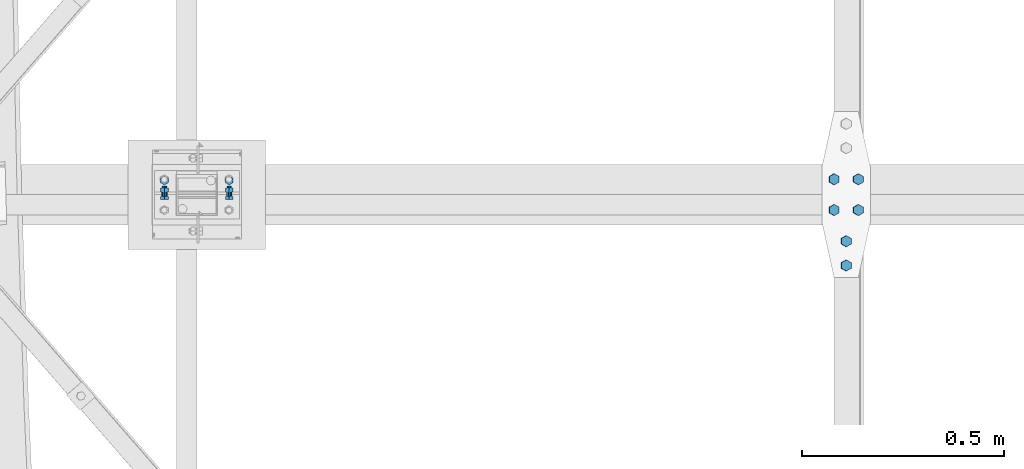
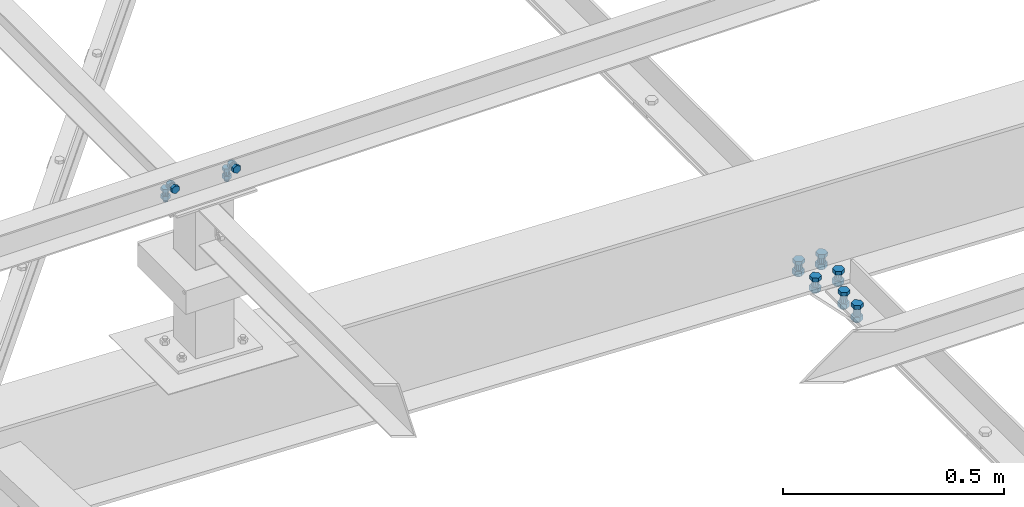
# One storey, part 165 of 3134: 4 mechanical fasteners, 3 elements without a shape of their own.
"""IFC2X3 building model written with IfcOpenShell, lengths in millimetres."""

from ifc_helpers import new_model, si_unit, frame, origin_with_axes, place, context, subcontext, project, spatial, faceted_brep, source, transform, mapped, material, type_object, element, aggregate, save


model = new_model("IFC2X3")

# Units and contexts
model_context = context("Model", 3, precision=1e-05, world=origin_with_axes())
body_context = subcontext(model_context, "Body", "Model", "MODEL_VIEW")
ifc_project = project(units=[si_unit("LENGTHUNIT", "METRE", prefix="MILLI"), si_unit("AREAUNIT", "SQUARE_METRE"), si_unit("VOLUMEUNIT", "CUBIC_METRE"), si_unit("MASSUNIT", "GRAM", prefix="KILO"), si_unit("TIMEUNIT", "SECOND"), si_unit("PLANEANGLEUNIT", "RADIAN"), si_unit("SOLIDANGLEUNIT", "STERADIAN"), si_unit("THERMODYNAMICTEMPERATUREUNIT", "DEGREE_CELSIUS"), si_unit("LUMINOUSINTENSITYUNIT", "LUMEN")], contexts=[model_context])

# Site, building, storey
site_placement = place(None, origin_with_axes())
site = spatial("IfcSite", under=ifc_project, at=site_placement, CompositionType="ELEMENT")
building_placement = place(site_placement, origin_with_axes())
building = spatial("IfcBuilding", under=site, at=building_placement, Name="Undefined", CompositionType="ELEMENT")
storey_placement = place(building_placement, origin_with_axes())
storey = spatial("IfcBuildingStorey", under=building, at=storey_placement, Name="Undefined", CompositionType="ELEMENT", Elevation=0.0)

# Assembly, mechanical fastener
assembly_1_placement = place(storey_placement, origin_with_axes())
assembly_1 = element("IfcElementAssembly", 1, at=assembly_1_placement, inside=storey, AssemblyPlace="NOTDEFINED", PredefinedType="RIGID_FRAME")
ifc_material = material(Name="8.8")
mechanical_fastener_type = type_object("IfcMechanicalFastenerType", Name="Bolt assembly")
shared_shape_1 = source(origin_with_axes(), body_context, "Body", "Brep", [
    faceted_brep([(10.9696551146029, -14.0, 0.0), (5.48482755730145, -14.0, 9.5), (-5.48482755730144, -14.0, 9.5), (-10.9696551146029, -14.0, 1.34339530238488e-15), (-5.48482755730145, -14.0, -9.5), (5.48482755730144, -14.0, -9.50000000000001), (5.48482755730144, -6.0, -9.50000000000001), (-5.48482755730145, -6.0, -9.5), (-10.9696551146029, -6.0, 1.34339530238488e-15), (-5.48482755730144, -6.0, 9.5), (5.48482755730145, -6.0, 9.5), (10.9696551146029, -6.0, 0.0), (6.0, -6.0, 0.0), (5.19615242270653, -6.0, 3.00000000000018), (2.99999999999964, -6.0, 5.19615242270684), (-6.21801588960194e-13, -6.0, 6.0), (-3.00000000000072, -6.0, 5.19615242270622), (-5.19615242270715, -6.0, 2.9999999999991), (-6.0, -6.0, -1.24360317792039e-12), (-5.19615242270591, -6.0, -3.00000000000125), (-2.99999999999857, -6.0, -5.19615242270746), (1.85874342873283e-12, -6.0, -6.0), (3.00000000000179, -6.0, -5.1961524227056), (5.19615242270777, -6.0, -2.99999999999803), (5.19615242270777, 24.0, -2.99999999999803), (3.00000000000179, 24.0, -5.1961524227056), (1.85874342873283e-12, 24.0, -6.0), (-2.99999999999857, 24.0, -5.19615242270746), (-5.19615242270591, 24.0, -3.00000000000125), (-6.0, 24.0, -1.24360317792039e-12), (-5.19615242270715, 24.0, 2.9999999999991), (-3.00000000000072, 24.0, 5.19615242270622), (-6.21801588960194e-13, 24.0, 6.0), (2.99999999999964, 24.0, 5.19615242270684), (5.19615242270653, 24.0, 3.00000000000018), (6.0, 24.0, 0.0), (10.9696551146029, 6.00000000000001, 0.0), (5.48482755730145, 6.00000000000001, 9.5), (-5.48482755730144, 6.00000000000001, 9.5), (-10.9696551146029, 6.00000000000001, 1.34339530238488e-15), (-5.48482755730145, 6.00000000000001, -9.5), (5.48482755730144, 6.00000000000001, -9.50000000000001), (5.48482755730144, 16.0, -9.50000000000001), (-5.48482755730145, 16.0, -9.5), (-10.9696551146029, 16.0, 1.34339530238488e-15), (-5.48482755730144, 16.0, 9.5), (5.48482755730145, 16.0, 9.5), (10.9696551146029, 16.0, 0.0)], [[[0, 1, 2, 3, 4, 5]], [[6, 7, 8, 9, 10, 11]], [[0, 11, 10, 1]], [[1, 10, 9, 2]], [[2, 9, 8, 3]], [[3, 8, 7, 4]], [[4, 7, 6, 5]], [[5, 6, 11, 0]], [[12, 13, 14, 15, 16, 17, 18, 19, 20, 21, 22, 23]], [[24, 25, 26, 27, 28, 29, 30, 31, 32, 33, 34, 35]], [[12, 35, 34, 13]], [[13, 34, 33, 14]], [[14, 33, 32, 15]], [[15, 32, 31, 16]], [[16, 31, 30, 17]], [[17, 30, 29, 18]], [[18, 29, 28, 19]], [[19, 28, 27, 20]], [[20, 27, 26, 21]], [[21, 26, 25, 22]], [[22, 25, 24, 23]], [[23, 24, 35, 12]], [[36, 37, 38, 39, 40, 41]], [[42, 43, 44, 45, 46, 47]], [[36, 47, 46, 37]], [[37, 46, 45, 38]], [[38, 45, 44, 39]], [[39, 44, 43, 40]], [[40, 43, 42, 41]], [[41, 42, 47, 36]]]),
    faceted_brep([(7.0, -0.1, 0.0), (6.06217782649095, -0.1, 3.50000000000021), (3.49999999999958, -0.1, 6.06217782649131), (-7.25435187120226e-13, -0.1, 7.0), (-3.50000000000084, -0.1, 6.06217782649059), (-6.06217782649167, -0.1, 3.49999999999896), (-7.0, -0.1, -1.45087037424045e-12), (-6.06217782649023, -0.1, -3.50000000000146), (-3.49999999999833, -0.1, -6.06217782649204), (2.1685340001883e-12, -0.1, -7.0), (3.50000000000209, -0.1, -6.06217782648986), (6.0621778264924, -0.1, -3.4999999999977), (6.0621778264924, 6.00000000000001, -3.4999999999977), (3.50000000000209, 6.00000000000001, -6.06217782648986), (2.1685340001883e-12, 6.00000000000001, -7.0), (-3.49999999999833, 6.00000000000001, -6.06217782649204), (-6.06217782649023, 6.00000000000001, -3.50000000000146), (-7.0, 6.00000000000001, -1.45087037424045e-12), (-6.06217782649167, 6.00000000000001, 3.49999999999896), (-3.50000000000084, 6.00000000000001, 6.06217782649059), (-7.25435187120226e-13, 6.00000000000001, 7.0), (3.49999999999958, 6.00000000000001, 6.06217782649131), (6.06217782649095, 6.00000000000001, 3.50000000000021), (7.0, 6.00000000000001, 0.0), (7.0, -5.9, 0.0), (6.06217782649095, -5.9, 3.50000000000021), (3.49999999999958, -5.9, 6.06217782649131), (-7.25435187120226e-13, -5.9, 7.0), (-3.50000000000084, -5.9, 6.06217782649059), (-6.06217782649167, -5.9, 3.49999999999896), (-7.0, -5.9, -1.45087037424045e-12), (-6.06217782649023, -5.9, -3.50000000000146), (-3.49999999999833, -5.9, -6.06217782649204), (2.1685340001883e-12, -5.9, -7.0), (3.50000000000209, -5.9, -6.06217782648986), (6.0621778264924, -5.9, -3.4999999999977), (6.0621778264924, 0.0999999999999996, -3.4999999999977), (3.50000000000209, 0.0999999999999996, -6.06217782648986), (2.1685340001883e-12, 0.0999999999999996, -7.0), (-3.49999999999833, 0.0999999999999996, -6.06217782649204), (-6.06217782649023, 0.0999999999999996, -3.50000000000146), (-7.0, 0.0999999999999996, -1.45087037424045e-12), (-6.06217782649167, 0.0999999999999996, 3.49999999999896), (-3.50000000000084, 0.0999999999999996, 6.06217782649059), (-7.25435187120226e-13, 0.0999999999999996, 7.0), (3.49999999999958, 0.0999999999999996, 6.06217782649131), (6.06217782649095, 0.0999999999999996, 3.50000000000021), (7.0, 0.0999999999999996, 0.0)], [[[0, 1, 2, 3, 4, 5, 6, 7, 8, 9, 10, 11]], [[12, 13, 14, 15, 16, 17, 18, 19, 20, 21, 22, 23]], [[0, 23, 22, 1]], [[1, 22, 21, 2]], [[2, 21, 20, 3]], [[3, 20, 19, 4]], [[4, 19, 18, 5]], [[5, 18, 17, 6]], [[6, 17, 16, 7]], [[7, 16, 15, 8]], [[8, 15, 14, 9]], [[9, 14, 13, 10]], [[10, 13, 12, 11]], [[11, 12, 23, 0]], [[24, 25, 26, 27, 28, 29, 30, 31, 32, 33, 34, 35]], [[36, 37, 38, 39, 40, 41, 42, 43, 44, 45, 46, 47]], [[24, 47, 46, 25]], [[25, 46, 45, 26]], [[26, 45, 44, 27]], [[27, 44, 43, 28]], [[28, 43, 42, 29]], [[29, 42, 41, 30]], [[30, 41, 40, 31]], [[31, 40, 39, 32]], [[32, 39, 38, 33]], [[33, 38, 37, 34]], [[34, 37, 36, 35]], [[35, 36, 47, 24]]]),
])
mechanical_fastener_1_placement = place(assembly_1_placement, frame((3043.33, 32278.75, 4365.0), z_axis=(1.0, 0.0, 0.0), x_axis=(0.0, -1.0, 0.0)))
mechanical_fastener_1 = element("IfcMechanicalFastener", 2, at=mechanical_fastener_1_placement, type_object=mechanical_fastener_type, material=ifc_material, Name="Bolt assembly", NominalDiameter=12.0, NominalLength=30.0, context=body_context, shape_type="MappedRepresentation", body=[
    mapped(shared_shape_1, transform((0.0, -5.32963895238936e-10, -79.9999999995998))),
    mapped(shared_shape_1, transform((0.0, 5.3114490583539e-10, 79.9999999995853))),
])

assembly_2_placement = place(storey_placement, origin_with_axes())
assembly_2 = element("IfcElementAssembly", 3, at=assembly_2_placement, inside=storey, AssemblyPlace="NOTDEFINED", PredefinedType="RIGID_FRAME")
shared_shape_2 = source(origin_with_axes(), body_context, "Body", "Brep", [
    faceted_brep([(13.856406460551, -21.0000017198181, 0.0), (6.92820323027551, -21.0000017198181, 12.0), (-6.92820323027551, -21.0000017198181, 12.0), (-13.856406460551, -21.0000017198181, 1.69692038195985e-15), (-6.92820323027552, -21.0000017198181, -12.0), (6.9282032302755, -21.0000017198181, -12.0), (6.9282032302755, -11.0000017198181, -12.0), (-6.92820323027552, -11.0000017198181, -12.0), (-13.856406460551, -11.0000017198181, 1.69692038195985e-15), (-6.92820323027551, -11.0000017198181, 12.0), (6.92820323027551, -11.0000017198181, 12.0), (13.856406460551, -11.0000017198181, 0.0), (8.0, -11.0000017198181, 0.0), (6.92820323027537, -11.0000017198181, 4.00000000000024), (3.99999999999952, -11.0000017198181, 6.92820323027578), (-8.29068785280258e-13, -11.0000017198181, 8.0), (-4.00000000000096, -11.0000017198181, 6.92820323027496), (-6.9282032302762, -11.0000017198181, 3.99999999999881), (-8.0, -11.0000017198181, -1.65813757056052e-12), (-6.92820323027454, -11.0000017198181, -4.00000000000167), (-3.99999999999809, -11.0000017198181, -6.92820323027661), (2.47832457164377e-12, -11.0000017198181, -8.0), (4.00000000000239, -11.0000017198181, -6.92820323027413), (6.92820323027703, -11.0000017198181, -3.99999999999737), (6.92820323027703, 29.0, -3.99999999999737), (4.00000000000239, 29.0, -6.92820323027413), (2.47832457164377e-12, 29.0, -8.0), (-3.99999999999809, 29.0, -6.92820323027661), (-6.92820323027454, 29.0, -4.00000000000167), (-8.0, 29.0, -1.65813757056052e-12), (-6.9282032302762, 29.0, 3.99999999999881), (-4.00000000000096, 29.0, 6.92820323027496), (-8.29068785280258e-13, 29.0, 8.0), (3.99999999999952, 29.0, 6.92820323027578), (6.92820323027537, 29.0, 4.00000000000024), (8.0, 29.0, 0.0), (13.856406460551, 10.9999982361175, 0.0), (6.92820323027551, 10.9999982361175, 12.0), (-6.92820323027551, 10.9999982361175, 12.0), (-13.856406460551, 10.9999982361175, 1.69692038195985e-15), (-6.92820323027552, 10.9999982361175, -12.0), (6.9282032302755, 10.9999982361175, -12.0), (6.9282032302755, 23.9999999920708, -12.0), (-6.92820323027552, 23.9999999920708, -12.0), (-13.856406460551, 23.9999999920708, 1.69692038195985e-15), (-6.92820323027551, 23.9999999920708, 12.0), (6.92820323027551, 23.9999999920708, 12.0), (13.856406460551, 23.9999999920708, 0.0)], [[[0, 1, 2, 3, 4, 5]], [[6, 7, 8, 9, 10, 11]], [[0, 11, 10, 1]], [[1, 10, 9, 2]], [[2, 9, 8, 3]], [[3, 8, 7, 4]], [[4, 7, 6, 5]], [[5, 6, 11, 0]], [[12, 13, 14, 15, 16, 17, 18, 19, 20, 21, 22, 23]], [[24, 25, 26, 27, 28, 29, 30, 31, 32, 33, 34, 35]], [[12, 35, 34, 13]], [[13, 34, 33, 14]], [[14, 33, 32, 15]], [[15, 32, 31, 16]], [[16, 31, 30, 17]], [[17, 30, 29, 18]], [[18, 29, 28, 19]], [[19, 28, 27, 20]], [[20, 27, 26, 21]], [[21, 26, 25, 22]], [[22, 25, 24, 23]], [[23, 24, 35, 12]], [[36, 37, 38, 39, 40, 41]], [[42, 43, 44, 45, 46, 47]], [[36, 47, 46, 37]], [[37, 46, 45, 38]], [[38, 45, 44, 39]], [[39, 44, 43, 40]], [[40, 43, 42, 41]], [[41, 42, 47, 36]]]),
    faceted_brep([(9.0, -3.99999624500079, 0.0), (7.79422863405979, -3.99999624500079, 4.50000000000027), (4.49999999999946, -3.99999624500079, 7.79422863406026), (-9.3270238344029e-13, -3.99999624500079, 9.0), (-4.50000000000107, -3.99999624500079, 7.79422863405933), (-7.79422863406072, -3.99999624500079, 4.49999999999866), (-9.0, -3.99999624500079, -1.86540476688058e-12), (-7.79422863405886, -3.99999624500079, -4.50000000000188), (-4.49999999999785, -3.99999624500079, -7.79422863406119), (2.78811514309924e-12, -3.99999624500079, -9.0), (4.50000000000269, -3.99999624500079, -7.7942286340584), (7.79422863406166, -3.99999624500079, -4.49999999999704), (7.79422863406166, 4.00000375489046, -4.49999999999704), (4.50000000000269, 4.00000375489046, -7.7942286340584), (2.78811514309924e-12, 4.00000375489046, -9.0), (-4.49999999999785, 4.00000375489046, -7.79422863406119), (-7.79422863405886, 4.00000375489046, -4.50000000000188), (-9.0, 4.00000375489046, -1.86540476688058e-12), (-7.79422863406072, 4.00000375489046, 4.49999999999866), (-4.50000000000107, 4.00000375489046, 7.79422863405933), (-9.3270238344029e-13, 4.00000375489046, 9.0), (4.49999999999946, 4.00000375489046, 7.79422863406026), (7.79422863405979, 4.00000375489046, 4.50000000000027), (9.0, 4.00000375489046, 0.0), (9.0, -10.9000017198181, 0.0), (7.79422863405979, -10.9000017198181, 4.50000000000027), (4.49999999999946, -10.9000017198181, 7.79422863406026), (-9.3270238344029e-13, -10.9000017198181, 9.0), (-4.50000000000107, -10.9000017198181, 7.79422863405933), (-7.79422863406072, -10.9000017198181, 4.49999999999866), (-9.0, -10.9000017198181, -1.86540476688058e-12), (-7.79422863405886, -10.9000017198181, -4.50000000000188), (-4.49999999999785, -10.9000017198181, -7.79422863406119), (2.78811514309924e-12, -10.9000017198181, -9.0), (4.50000000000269, -10.9000017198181, -7.7942286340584), (7.79422863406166, -10.9000017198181, -4.49999999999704), (7.79422863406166, -3.9, -4.49999999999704), (4.50000000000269, -3.9, -7.7942286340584), (2.78811514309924e-12, -3.9, -9.0), (-4.49999999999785, -3.9, -7.79422863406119), (-7.79422863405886, -3.9, -4.50000000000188), (-9.0, -3.9, -1.86540476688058e-12), (-7.79422863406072, -3.9, 4.49999999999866), (-4.50000000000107, -3.9, 7.79422863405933), (-9.3270238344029e-13, -3.9, 9.0), (4.49999999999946, -3.9, 7.79422863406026), (7.79422863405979, -3.9, 4.50000000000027), (9.0, -3.9, 0.0), (9.0, 3.9, 0.0), (7.79422863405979, 3.9, 4.50000000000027), (4.49999999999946, 3.9, 7.79422863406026), (-9.3270238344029e-13, 3.9, 9.0), (-4.50000000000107, 3.9, 7.79422863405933), (-7.79422863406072, 3.9, 4.49999999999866), (-9.0, 3.9, -1.86540476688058e-12), (-7.79422863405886, 3.9, -4.50000000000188), (-4.49999999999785, 3.9, -7.79422863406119), (2.78811514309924e-12, 3.9, -9.0), (4.50000000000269, 3.9, -7.7942286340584), (7.79422863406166, 3.9, -4.49999999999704), (7.79422863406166, 10.9999982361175, -4.49999999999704), (4.50000000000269, 10.9999982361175, -7.7942286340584), (2.78811514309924e-12, 10.9999982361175, -9.0), (-4.49999999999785, 10.9999982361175, -7.79422863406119), (-7.79422863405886, 10.9999982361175, -4.50000000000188), (-9.0, 10.9999982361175, -1.86540476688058e-12), (-7.79422863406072, 10.9999982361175, 4.49999999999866), (-4.50000000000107, 10.9999982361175, 7.79422863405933), (-9.3270238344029e-13, 10.9999982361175, 9.0), (4.49999999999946, 10.9999982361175, 7.79422863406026), (7.79422863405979, 10.9999982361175, 4.50000000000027), (9.0, 10.9999982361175, 0.0)], [[[0, 1, 2, 3, 4, 5, 6, 7, 8, 9, 10, 11]], [[12, 13, 14, 15, 16, 17, 18, 19, 20, 21, 22, 23]], [[0, 23, 22, 1]], [[1, 22, 21, 2]], [[2, 21, 20, 3]], [[3, 20, 19, 4]], [[4, 19, 18, 5]], [[5, 18, 17, 6]], [[6, 17, 16, 7]], [[7, 16, 15, 8]], [[8, 15, 14, 9]], [[9, 14, 13, 10]], [[10, 13, 12, 11]], [[11, 12, 23, 0]], [[24, 25, 26, 27, 28, 29, 30, 31, 32, 33, 34, 35]], [[36, 37, 38, 39, 40, 41, 42, 43, 44, 45, 46, 47]], [[24, 47, 46, 25]], [[25, 46, 45, 26]], [[26, 45, 44, 27]], [[27, 44, 43, 28]], [[28, 43, 42, 29]], [[29, 42, 41, 30]], [[30, 41, 40, 31]], [[31, 40, 39, 32]], [[32, 39, 38, 33]], [[33, 38, 37, 34]], [[34, 37, 36, 35]], [[35, 36, 47, 24]], [[48, 49, 50, 51, 52, 53, 54, 55, 56, 57, 58, 59]], [[60, 61, 62, 63, 64, 65, 66, 67, 68, 69, 70, 71]], [[48, 71, 70, 49]], [[49, 70, 69, 50]], [[50, 69, 68, 51]], [[51, 68, 67, 52]], [[52, 67, 66, 53]], [[53, 66, 65, 54]], [[54, 65, 64, 55]], [[55, 64, 63, 56]], [[56, 63, 62, 57]], [[57, 62, 61, 58]], [[58, 61, 60, 59]], [[59, 60, 71, 48]]]),
])
mechanical_fastener_2_placement = place(assembly_2_placement, frame((4647.50483520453, 32128.75, 3576.15051901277), z_axis=(0.999388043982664, 0.0, -0.0349791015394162), x_axis=(0.0, -1.0, 0.0)))
mechanical_fastener_2 = element("IfcMechanicalFastener", 4, at=mechanical_fastener_2_placement, type_object=mechanical_fastener_type, material=ifc_material, Name="Bolt assembly", NominalDiameter=16.0, NominalLength=40.0, context=body_context, shape_type="MappedRepresentation", body=[
    mapped(shared_shape_2, transform((0.0, 0.0, 0.0))),
    mapped(shared_shape_2, transform((59.9999999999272, 0.0, 5.40239852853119e-10))),
])
aggregate(assembly_2, [mechanical_fastener_2])

assembly_3_placement = place(storey_placement, origin_with_axes())
assembly_3 = element("IfcElementAssembly", 5, at=assembly_3_placement, inside=storey, Name="PL8", AssemblyPlace="NOTDEFINED", PredefinedType="RIGID_FRAME")
shared_shape_3 = source(origin_with_axes(), body_context, "Body", "Brep", [
    faceted_brep([(13.856406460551, -23.2000817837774, 0.0), (6.92820323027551, -23.2000817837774, 12.0), (-6.92820323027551, -23.2000817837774, 12.0), (-13.856406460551, -23.2000817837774, 1.69692038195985e-15), (-6.92820323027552, -23.2000817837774, -12.0), (6.9282032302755, -23.2000817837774, -12.0), (6.9282032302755, -13.2000817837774, -12.0), (-6.92820323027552, -13.2000817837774, -12.0), (-13.856406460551, -13.2000817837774, 1.69692038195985e-15), (-6.92820323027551, -13.2000817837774, 12.0), (6.92820323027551, -13.2000817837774, 12.0), (13.856406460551, -13.2000817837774, 0.0), (8.0, -13.2000817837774, 0.0), (6.92820323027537, -13.2000817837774, 4.00000000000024), (3.99999999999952, -13.2000817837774, 6.92820323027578), (-8.29068785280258e-13, -13.2000817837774, 8.0), (-4.00000000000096, -13.2000817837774, 6.92820323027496), (-6.9282032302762, -13.2000817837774, 3.99999999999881), (-8.0, -13.2000817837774, -1.65813757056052e-12), (-6.92820323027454, -13.2000817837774, -4.00000000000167), (-3.99999999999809, -13.2000817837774, -6.92820323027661), (2.47832457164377e-12, -13.2000817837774, -8.0), (4.00000000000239, -13.2000817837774, -6.92820323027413), (6.92820323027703, -13.2000817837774, -3.99999999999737), (6.92820323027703, 21.7999182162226, -3.99999999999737), (4.00000000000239, 21.7999182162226, -6.92820323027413), (2.47832457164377e-12, 21.7999182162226, -8.0), (-3.99999999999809, 21.7999182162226, -6.92820323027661), (-6.92820323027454, 21.7999182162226, -4.00000000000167), (-8.0, 21.7999182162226, -1.65813757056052e-12), (-6.9282032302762, 21.7999182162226, 3.99999999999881), (-4.00000000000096, 21.7999182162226, 6.92820323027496), (-8.29068785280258e-13, 21.7999182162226, 8.0), (3.99999999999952, 21.7999182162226, 6.92820323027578), (6.92820323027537, 21.7999182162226, 4.00000000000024), (8.0, 21.7999182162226, 0.0), (13.856406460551, 3.99999999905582, 0.0), (6.92820323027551, 3.99999999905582, 12.0), (-6.92820323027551, 3.99999999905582, 12.0), (-13.856406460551, 3.99999999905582, 1.69692038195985e-15), (-6.92820323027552, 3.99999999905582, -12.0), (6.9282032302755, 3.99999999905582, -12.0), (6.9282032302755, 16.9999999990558, -12.0), (-6.92820323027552, 16.9999999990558, -12.0), (-13.856406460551, 16.9999999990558, 1.69692038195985e-15), (-6.92820323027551, 16.9999999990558, 12.0), (6.92820323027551, 16.9999999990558, 12.0), (13.856406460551, 16.9999999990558, 0.0)], [[[0, 1, 2, 3, 4, 5]], [[6, 7, 8, 9, 10, 11]], [[0, 11, 10, 1]], [[1, 10, 9, 2]], [[2, 9, 8, 3]], [[3, 8, 7, 4]], [[4, 7, 6, 5]], [[5, 6, 11, 0]], [[12, 13, 14, 15, 16, 17, 18, 19, 20, 21, 22, 23]], [[24, 25, 26, 27, 28, 29, 30, 31, 32, 33, 34, 35]], [[12, 35, 34, 13]], [[13, 34, 33, 14]], [[14, 33, 32, 15]], [[15, 32, 31, 16]], [[16, 31, 30, 17]], [[17, 30, 29, 18]], [[18, 29, 28, 19]], [[19, 28, 27, 20]], [[20, 27, 26, 21]], [[21, 26, 25, 22]], [[22, 25, 24, 23]], [[23, 24, 35, 12]], [[36, 37, 38, 39, 40, 41]], [[42, 43, 44, 45, 46, 47]], [[36, 47, 46, 37]], [[37, 46, 45, 38]], [[38, 45, 44, 39]], [[39, 44, 43, 40]], [[40, 43, 42, 41]], [[41, 42, 47, 36]]]),
    faceted_brep([(9.0, -13.1000817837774, 0.0), (7.79422863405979, -13.1000817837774, 4.50000000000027), (4.49999999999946, -13.1000817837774, 7.79422863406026), (-9.3270238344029e-13, -13.1000817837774, 9.0), (-4.50000000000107, -13.1000817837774, 7.79422863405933), (-7.79422863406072, -13.1000817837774, 4.49999999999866), (-9.0, -13.1000817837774, -1.86540476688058e-12), (-7.79422863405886, -13.1000817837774, -4.50000000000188), (-4.49999999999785, -13.1000817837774, -7.79422863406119), (2.78811514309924e-12, -13.1000817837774, -9.0), (4.50000000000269, -13.1000817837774, -7.7942286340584), (7.79422863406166, -13.1000817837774, -4.49999999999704), (7.79422863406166, -3.90008197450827, -4.49999999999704), (4.50000000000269, -3.90008197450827, -7.7942286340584), (2.78811514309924e-12, -3.90008197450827, -9.0), (-4.49999999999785, -3.90008197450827, -7.79422863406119), (-7.79422863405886, -3.90008197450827, -4.50000000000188), (-9.0, -3.90008197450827, -1.86540476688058e-12), (-7.79422863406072, -3.90008197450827, 4.49999999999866), (-4.50000000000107, -3.90008197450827, 7.79422863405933), (-9.3270238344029e-13, -3.90008197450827, 9.0), (4.49999999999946, -3.90008197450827, 7.79422863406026), (7.79422863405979, -3.90008197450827, 4.50000000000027), (9.0, -3.90008197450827, 0.0), (9.0, -4.10000000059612, 0.0), (7.79422863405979, -4.10000000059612, 4.50000000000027), (4.49999999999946, -4.10000000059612, 7.79422863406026), (-9.3270238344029e-13, -4.10000000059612, 9.0), (-4.50000000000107, -4.10000000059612, 7.79422863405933), (-7.79422863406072, -4.10000000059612, 4.49999999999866), (-9.0, -4.10000000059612, -1.86540476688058e-12), (-7.79422863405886, -4.10000000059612, -4.50000000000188), (-4.49999999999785, -4.10000000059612, -7.79422863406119), (2.78811514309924e-12, -4.10000000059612, -9.0), (4.50000000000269, -4.10000000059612, -7.7942286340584), (7.79422863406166, -4.10000000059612, -4.49999999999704), (7.79422863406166, 4.00000375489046, -4.49999999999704), (4.50000000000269, 4.00000375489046, -7.7942286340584), (2.78811514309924e-12, 4.00000375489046, -9.0), (-4.49999999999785, 4.00000375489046, -7.79422863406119), (-7.79422863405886, 4.00000375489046, -4.50000000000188), (-9.0, 4.00000375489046, -1.86540476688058e-12), (-7.79422863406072, 4.00000375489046, 4.49999999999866), (-4.50000000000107, 4.00000375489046, 7.79422863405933), (-9.3270238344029e-13, 4.00000375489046, 9.0), (4.49999999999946, 4.00000375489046, 7.79422863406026), (7.79422863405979, 4.00000375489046, 4.50000000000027), (9.0, 4.00000375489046, 0.0)], [[[0, 1, 2, 3, 4, 5, 6, 7, 8, 9, 10, 11]], [[12, 13, 14, 15, 16, 17, 18, 19, 20, 21, 22, 23]], [[0, 23, 22, 1]], [[1, 22, 21, 2]], [[2, 21, 20, 3]], [[3, 20, 19, 4]], [[4, 19, 18, 5]], [[5, 18, 17, 6]], [[6, 17, 16, 7]], [[7, 16, 15, 8]], [[8, 15, 14, 9]], [[9, 14, 13, 10]], [[10, 13, 12, 11]], [[11, 12, 23, 0]], [[24, 25, 26, 27, 28, 29, 30, 31, 32, 33, 34, 35]], [[36, 37, 38, 39, 40, 41, 42, 43, 44, 45, 46, 47]], [[24, 47, 46, 25]], [[25, 46, 45, 26]], [[26, 45, 44, 27]], [[27, 44, 43, 28]], [[28, 43, 42, 29]], [[29, 42, 41, 30]], [[30, 41, 40, 31]], [[31, 40, 39, 32]], [[32, 39, 38, 33]], [[33, 38, 37, 34]], [[34, 37, 36, 35]], [[35, 36, 47, 24]]]),
])
mechanical_fastener_3_placement = place(assembly_3_placement, frame((4647.50483517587, 32205.75, 3576.15051901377), z_axis=(-0.999388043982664, 0.0, 0.0349791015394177), x_axis=(0.0, 1.0, 0.0)))
mechanical_fastener_3 = element("IfcMechanicalFastener", 6, at=mechanical_fastener_3_placement, type_object=mechanical_fastener_type, material=ifc_material, Name="Bolt assembly", NominalDiameter=16.0, NominalLength=35.0, context=body_context, shape_type="MappedRepresentation", body=[
    mapped(shared_shape_3, transform((0.0, 4.54747350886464e-13, -30.0000000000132))),
    mapped(shared_shape_3, transform((76.0, -2.00088834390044e-10, -29.9999999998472))),
    mapped(shared_shape_3, transform((0.0, 4.54747350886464e-13, 30.0000000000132))),
    mapped(shared_shape_3, transform((76.0, 1.98269844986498e-10, 29.9999999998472))),
])
aggregate(assembly_3, [mechanical_fastener_3])

# Mechanical fastener
shared_shape_4 = source(origin_with_axes(), body_context, "Body", "Brep", [
    faceted_brep([(10.9696551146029, -12.0003169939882, 0.0), (5.48482755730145, -12.0003169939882, 9.5), (-5.48482755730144, -12.0003169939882, 9.5), (-10.9696551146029, -12.0003169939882, 1.34339530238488e-15), (-5.48482755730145, -12.0003169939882, -9.5), (5.48482755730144, -12.0003169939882, -9.50000000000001), (5.48482755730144, -4.00031699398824, -9.50000000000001), (-5.48482755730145, -4.00031699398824, -9.5), (-10.9696551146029, -4.00031699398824, 1.34339530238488e-15), (-5.48482755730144, -4.00031699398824, 9.5), (5.48482755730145, -4.00031699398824, 9.5), (10.9696551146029, -4.00031699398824, 0.0), (6.0, -4.00031699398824, 0.0), (5.19615242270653, -4.00031699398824, 3.00000000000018), (2.99999999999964, -4.00031699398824, 5.19615242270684), (-6.21801588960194e-13, -4.00031699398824, 6.0), (-3.00000000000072, -4.00031699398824, 5.19615242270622), (-5.19615242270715, -4.00031699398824, 2.9999999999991), (-6.0, -4.00031699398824, -1.24360317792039e-12), (-5.19615242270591, -4.00031699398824, -3.00000000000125), (-2.99999999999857, -4.00031699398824, -5.19615242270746), (1.85874342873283e-12, -4.00031699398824, -6.0), (3.00000000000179, -4.00031699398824, -5.1961524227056), (5.19615242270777, -4.00031699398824, -2.99999999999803), (5.19615242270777, 20.9997148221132, -2.99999999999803), (3.00000000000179, 20.9997148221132, -5.1961524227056), (1.85874342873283e-12, 20.9997148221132, -6.0), (-2.99999999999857, 20.9997148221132, -5.19615242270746), (-5.19615242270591, 20.9997148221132, -3.00000000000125), (-6.0, 20.9997148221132, -1.24360317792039e-12), (-5.19615242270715, 20.9997148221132, 2.9999999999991), (-3.00000000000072, 20.9997148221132, 5.19615242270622), (-6.21801588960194e-13, 20.9997148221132, 6.0), (2.99999999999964, 20.9997148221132, 5.19615242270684), (5.19615242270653, 20.9997148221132, 3.00000000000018), (6.0, 20.9997148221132, 0.0), (10.9696551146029, 6.00000000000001, 0.0), (5.48482755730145, 6.00000000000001, 9.5), (-5.48482755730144, 6.00000000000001, 9.5), (-10.9696551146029, 6.00000000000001, 1.34339530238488e-15), (-5.48482755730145, 6.00000000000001, -9.5), (5.48482755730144, 6.00000000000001, -9.50000000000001), (5.48482755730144, 16.0, -9.50000000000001), (-5.48482755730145, 16.0, -9.5), (-10.9696551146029, 16.0, 1.34339530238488e-15), (-5.48482755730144, 16.0, 9.5), (5.48482755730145, 16.0, 9.5), (10.9696551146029, 16.0, 0.0)], [[[0, 1, 2, 3, 4, 5]], [[6, 7, 8, 9, 10, 11]], [[0, 11, 10, 1]], [[1, 10, 9, 2]], [[2, 9, 8, 3]], [[3, 8, 7, 4]], [[4, 7, 6, 5]], [[5, 6, 11, 0]], [[12, 13, 14, 15, 16, 17, 18, 19, 20, 21, 22, 23]], [[24, 25, 26, 27, 28, 29, 30, 31, 32, 33, 34, 35]], [[12, 35, 34, 13]], [[13, 34, 33, 14]], [[14, 33, 32, 15]], [[15, 32, 31, 16]], [[16, 31, 30, 17]], [[17, 30, 29, 18]], [[18, 29, 28, 19]], [[19, 28, 27, 20]], [[20, 27, 26, 21]], [[21, 26, 25, 22]], [[22, 25, 24, 23]], [[23, 24, 35, 12]], [[36, 37, 38, 39, 40, 41]], [[42, 43, 44, 45, 46, 47]], [[36, 47, 46, 37]], [[37, 46, 45, 38]], [[38, 45, 44, 39]], [[39, 44, 43, 40]], [[40, 43, 42, 41]], [[41, 42, 47, 36]]]),
    faceted_brep([(7.0, -3.90031233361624, 0.0), (6.06217782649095, -3.90027629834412, 3.50000000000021), (3.49999999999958, -3.90031233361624, 6.06217782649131), (-7.25435187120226e-13, -3.90027629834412, 7.0), (-3.50000000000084, -3.90027629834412, 6.06217782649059), (-6.06217782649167, -3.90027629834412, 3.49999999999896), (-7.0, -3.90031233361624, -1.45087037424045e-12), (-6.06217782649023, -3.90027629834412, -3.50000000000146), (-3.49999999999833, -3.90027629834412, -6.06217782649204), (2.1685340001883e-12, -3.90027629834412, -7.0), (3.50000000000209, -3.90027629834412, -6.06217782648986), (6.0621778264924, -3.90031233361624, -3.4999999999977), (6.0621778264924, 0.0996830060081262, -3.4999999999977), (3.50000000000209, 0.0996830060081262, -6.06217782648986), (2.1685340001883e-12, 0.0996830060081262, -7.0), (-3.49999999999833, 0.0996830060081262, -6.06217782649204), (-6.06217782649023, 0.0996830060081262, -3.50000000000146), (-7.0, 0.0996830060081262, -1.45087037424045e-12), (-6.06217782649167, 0.0997148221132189, 3.49999999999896), (-3.50000000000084, 0.0997148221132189, 6.06217782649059), (-7.25435187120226e-13, 0.0996830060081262, 7.0), (3.49999999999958, 0.0996830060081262, 6.06217782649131), (6.06217782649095, 0.0996830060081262, 3.50000000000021), (7.0, 0.0997148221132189, 0.0), (7.0, -0.1, 0.0), (6.06217782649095, -0.1, 3.50000000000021), (3.49999999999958, -0.1, 6.06217782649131), (-7.25435187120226e-13, -0.1, 7.0), (-3.50000000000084, -0.1, 6.06217782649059), (-6.06217782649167, -0.1, 3.49999999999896), (-7.0, -0.1, -1.45087037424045e-12), (-6.06217782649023, -0.1, -3.50000000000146), (-3.49999999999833, -0.1, -6.06217782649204), (2.1685340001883e-12, -0.1, -7.0), (3.50000000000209, -0.1, -6.06217782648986), (6.0621778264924, -0.1, -3.4999999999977), (6.0621778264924, 6.00000000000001, -3.4999999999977), (3.50000000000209, 6.00000000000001, -6.06217782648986), (2.1685340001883e-12, 6.00000000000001, -7.0), (-3.49999999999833, 6.00000000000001, -6.06217782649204), (-6.06217782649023, 6.00000000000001, -3.50000000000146), (-7.0, 6.00000000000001, -1.45087037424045e-12), (-6.06217782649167, 6.00000000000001, 3.49999999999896), (-3.50000000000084, 6.00000000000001, 6.06217782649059), (-7.25435187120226e-13, 6.00000000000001, 7.0), (3.49999999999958, 6.00000000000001, 6.06217782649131), (6.06217782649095, 6.00000000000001, 3.50000000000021), (7.0, 6.00000000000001, 0.0)], [[[0, 1, 2, 3, 4, 5, 6, 7, 8, 9, 10, 11]], [[12, 13, 14, 15, 16, 17, 18, 19, 20, 21, 22, 23]], [[0, 23, 22, 1]], [[1, 22, 21, 2]], [[2, 21, 20, 3]], [[3, 20, 19, 4]], [[4, 19, 18, 5]], [[5, 18, 17, 6]], [[6, 17, 16, 7]], [[7, 16, 15, 8]], [[8, 15, 14, 9]], [[9, 14, 13, 10]], [[10, 13, 12, 11]], [[11, 12, 23, 0]], [[24, 25, 26, 27, 28, 29, 30, 31, 32, 33, 34, 35]], [[36, 37, 38, 39, 40, 41, 42, 43, 44, 45, 46, 47]], [[24, 47, 46, 25]], [[25, 46, 45, 26]], [[26, 45, 44, 27]], [[27, 44, 43, 28]], [[28, 43, 42, 29]], [[29, 42, 41, 30]], [[30, 41, 40, 31]], [[31, 40, 39, 32]], [[32, 39, 38, 33]], [[33, 38, 37, 34]], [[34, 37, 36, 35]], [[35, 36, 47, 24]]]),
])
mechanical_fastener_4_placement = place(assembly_1_placement, frame((3043.33, 32243.75, 4400.0), z_axis=(1.0, 0.0, 0.0), x_axis=(0.0, 0.0, -1.0)))
mechanical_fastener_4 = element("IfcMechanicalFastener", 7, at=mechanical_fastener_4_placement, type_object=mechanical_fastener_type, material=ifc_material, Name="Bolt assembly", NominalDiameter=12.0, NominalLength=25.0, context=body_context, shape_type="MappedRepresentation", body=[
    mapped(shared_shape_4, transform((0.0, -5.32963895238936e-10, -79.9999999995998))),
    mapped(shared_shape_4, transform((0.0, 5.3114490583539e-10, 79.9999999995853))),
])

aggregate(assembly_1, [mechanical_fastener_4, mechanical_fastener_1])

save(model, "model.ifc")
